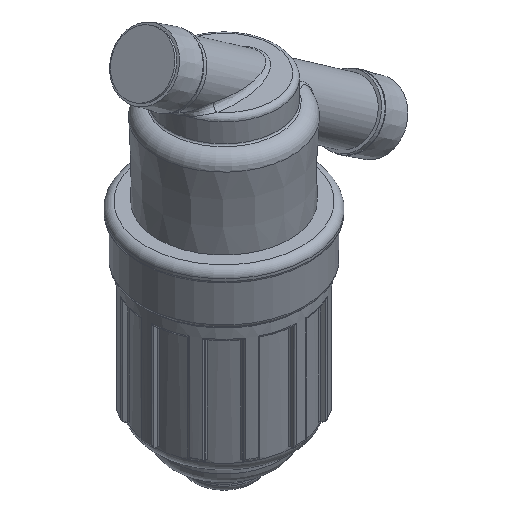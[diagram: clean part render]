
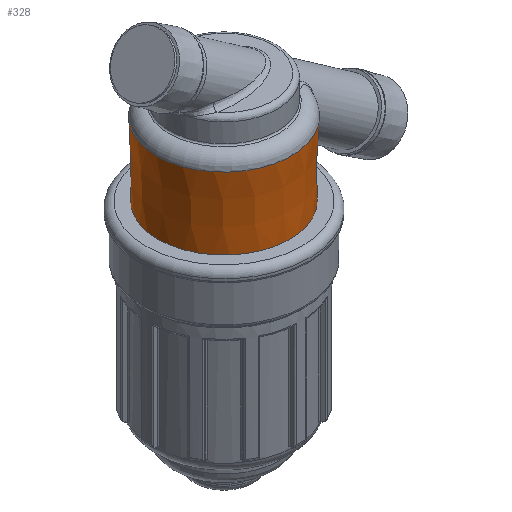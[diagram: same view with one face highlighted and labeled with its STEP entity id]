
A CAD part, isometric view. The second image highlights one B-rep face of the part: STEP entity #328.
In plain terms, the highlighted conical face has half-angle 1.198 degrees and reference radius 28.564 mm.
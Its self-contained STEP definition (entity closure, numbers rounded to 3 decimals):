
#328 = ADVANCED_FACE( '', ( #769, #770 ), #771, .T. );
#769 = FACE_OUTER_BOUND( '', #2576, .T. );
#770 = FACE_BOUND( '', #2577, .T. );
#771 = CONICAL_SURFACE( '', #2578, 28.564, 0.021 );
#2576 = EDGE_LOOP( '', ( #5468, #5469 ) );
#2577 = EDGE_LOOP( '', ( #5470 ) );
#2578 = AXIS2_PLACEMENT_3D( '', #5471, #5472, #5473 );
#5468 = ORIENTED_EDGE( '', *, *, #6695, .T. );
#5469 = ORIENTED_EDGE( '', *, *, #6696, .T. );
#5470 = ORIENTED_EDGE( '', *, *, #6697, .F. );
#5471 = CARTESIAN_POINT( '', ( 0., 0., 56.82 ) );
#5472 = DIRECTION( '', ( 0., 0., 1. ) );
#5473 = DIRECTION( '', ( 1., 0., 0. ) );
#6695 = EDGE_CURVE( '', #6959, #7442, #7525, .T. );
#6696 = EDGE_CURVE( '', #7442, #6959, #7526, .T. );
#6697 = EDGE_CURVE( '', #7527, #7527, #7528, .T. );
#6959 = VERTEX_POINT( '', #7925 );
#7442 = VERTEX_POINT( '', #9038 );
#7525 = CIRCLE( '', #9236, 28.564 );
#7526 = B_SPLINE_CURVE_WITH_KNOTS( '', 3, ( #9237, #9238, #9239, #9240, #9241, #9242, #9243, #9244, #9245, #9246, #9247, #9248, #9249, #9250, #9251, #9252, #9253, #9254, #9255, #9256, #9257, #9258, #9259, #9260, #9261, #9262, #9263, #9264, #9265, #9266, #9267, #9268, #9269, #9270, #9271, #9272, #9273, #9274, #9275, #9276, #9277, #9278, #9279, #9280, #9281, #9282 ), .UNSPECIFIED., .F., .F., ( 4, 1, 1, 1, 1, 1, 1, 1, 1, 1, 1, 1, 1, 1, 1, 1, 1, 1, 1, 1, 1, 1, 1, 1, 1, 1, 1, 1, 1, 1, 1, 1, 1, 1, 1, 1, 1, 1, 1, 1, 1, 1, 1, 4 ), ( 0., 0.006, 0.012, 0.018, 0.025, 0.031, 0.037, 0.043, 0.05, 0.056, 0.062, 0.093, 0.125, 0.156, 0.187, 0.218, 0.25, 0.312, 0.344, 0.375, 0.407, 0.437, 0.469, 0.5, 0.5, 0.531, 0.563, 0.593, 0.625, 0.656, 0.688, 0.75, 0.781, 0.812, 0.844, 0.875, 0.907, 0.937, 0.948, 0.959, 0.969, 0.979, 0.99, 1. ), .UNSPECIFIED. );
#7527 = VERTEX_POINT( '', #9283 );
#7528 = CIRCLE( '', #9284, 27.919 );
#7925 = CARTESIAN_POINT( '', ( 26.025, -11.772, 56.82 ) );
#9038 = CARTESIAN_POINT( '', ( 26.025, 11.772, 56.82 ) );
#9236 = AXIS2_PLACEMENT_3D( '', #10488, #10489, #10490 );
#9237 = CARTESIAN_POINT( '', ( 26.025, 11.772, 56.82 ) );
#9238 = CARTESIAN_POINT( '', ( 26.002, 11.818, 56.701 ) );
#9239 = CARTESIAN_POINT( '', ( 25.955, 11.909, 56.463 ) );
#9240 = CARTESIAN_POINT( '', ( 25.888, 12.035, 56.101 ) );
#9241 = CARTESIAN_POINT( '', ( 25.825, 12.152, 55.734 ) );
#9242 = CARTESIAN_POINT( '', ( 25.765, 12.261, 55.363 ) );
#9243 = CARTESIAN_POINT( '', ( 25.708, 12.361, 54.986 ) );
#9244 = CARTESIAN_POINT( '', ( 25.655, 12.452, 54.604 ) );
#9245 = CARTESIAN_POINT( '', ( 25.606, 12.534, 54.218 ) );
#9246 = CARTESIAN_POINT( '', ( 25.561, 12.609, 53.826 ) );
#9247 = CARTESIAN_POINT( '', ( 25.519, 12.674, 53.43 ) );
#9248 = CARTESIAN_POINT( '', ( 25.433, 12.803, 52.523 ) );
#9249 = CARTESIAN_POINT( '', ( 25.341, 12.917, 51.069 ) );
#9250 = CARTESIAN_POINT( '', ( 25.314, 12.879, 49.094 ) );
#9251 = CARTESIAN_POINT( '', ( 25.374, 12.67, 47.115 ) );
#9252 = CARTESIAN_POINT( '', ( 25.509, 12.304, 45.177 ) );
#9253 = CARTESIAN_POINT( '', ( 25.708, 11.789, 43.267 ) );
#9254 = CARTESIAN_POINT( '', ( 26.043, 10.912, 40.798 ) );
#9255 = CARTESIAN_POINT( '', ( 26.46, 9.741, 38.431 ) );
#9256 = CARTESIAN_POINT( '', ( 26.902, 8.265, 36.283 ) );
#9257 = CARTESIAN_POINT( '', ( 27.238, 6.967, 34.784 ) );
#9258 = CARTESIAN_POINT( '', ( 27.546, 5.509, 33.489 ) );
#9259 = CARTESIAN_POINT( '', ( 27.811, 3.821, 32.428 ) );
#9260 = CARTESIAN_POINT( '', ( 27.992, 1.979, 31.725 ) );
#9261 = CARTESIAN_POINT( '', ( 28.036, 0.648, 31.56 ) );
#9262 = CARTESIAN_POINT( '', ( 28.036, -0.648, 31.56 ) );
#9263 = CARTESIAN_POINT( '', ( 27.992, -1.977, 31.724 ) );
#9264 = CARTESIAN_POINT( '', ( 27.812, -3.817, 32.426 ) );
#9265 = CARTESIAN_POINT( '', ( 27.547, -5.503, 33.485 ) );
#9266 = CARTESIAN_POINT( '', ( 27.239, -6.961, 34.778 ) );
#9267 = CARTESIAN_POINT( '', ( 26.904, -8.259, 36.276 ) );
#9268 = CARTESIAN_POINT( '', ( 26.462, -9.736, 38.423 ) );
#9269 = CARTESIAN_POINT( '', ( 26.045, -10.907, 40.787 ) );
#9270 = CARTESIAN_POINT( '', ( 25.71, -11.784, 43.252 ) );
#9271 = CARTESIAN_POINT( '', ( 25.511, -12.3, 45.161 ) );
#9272 = CARTESIAN_POINT( '', ( 25.375, -12.668, 47.102 ) );
#9273 = CARTESIAN_POINT( '', ( 25.315, -12.878, 49.083 ) );
#9274 = CARTESIAN_POINT( '', ( 25.341, -12.917, 51.056 ) );
#9275 = CARTESIAN_POINT( '', ( 25.438, -12.798, 52.595 ) );
#9276 = CARTESIAN_POINT( '', ( 25.543, -12.637, 53.677 ) );
#9277 = CARTESIAN_POINT( '', ( 25.619, -12.514, 54.333 ) );
#9278 = CARTESIAN_POINT( '', ( 25.706, -12.366, 54.976 ) );
#9279 = CARTESIAN_POINT( '', ( 25.802, -12.194, 55.605 ) );
#9280 = CARTESIAN_POINT( '', ( 25.908, -11.999, 56.22 ) );
#9281 = CARTESIAN_POINT( '', ( 25.986, -11.848, 56.62 ) );
#9282 = CARTESIAN_POINT( '', ( 26.025, -11.772, 56.82 ) );
#9283 = CARTESIAN_POINT( '', ( -27.919, 0., 26. ) );
#9284 = AXIS2_PLACEMENT_3D( '', #10491, #10492, #10493 );
#10488 = CARTESIAN_POINT( '', ( 0., 0., 56.82 ) );
#10489 = DIRECTION( '', ( 0., 0., -1. ) );
#10490 = DIRECTION( '', ( -1., 0., 0. ) );
#10491 = CARTESIAN_POINT( '', ( 0., 0., 26. ) );
#10492 = DIRECTION( '', ( 0., 0., -1. ) );
#10493 = DIRECTION( '', ( -1., 0., 0. ) );
